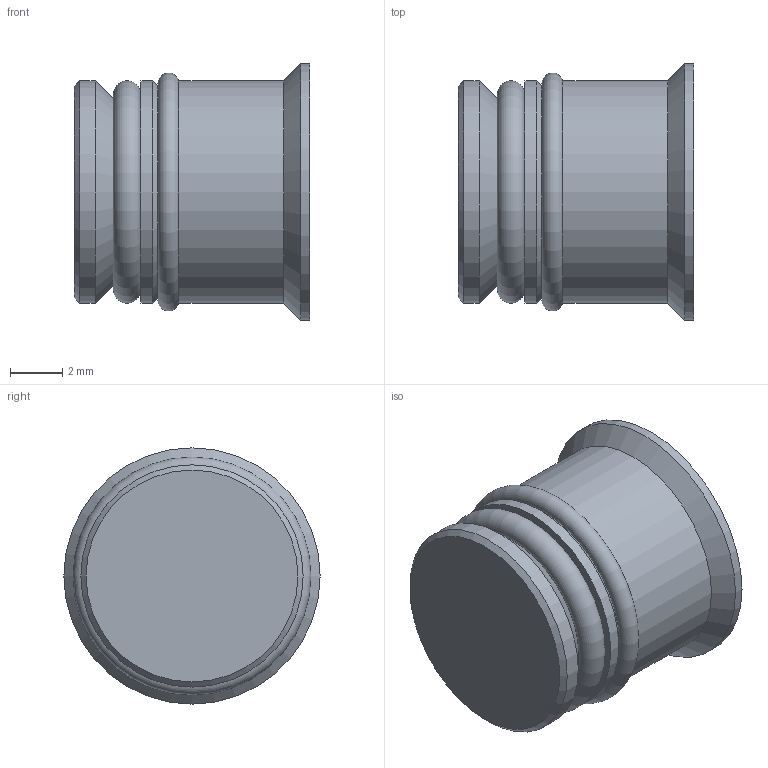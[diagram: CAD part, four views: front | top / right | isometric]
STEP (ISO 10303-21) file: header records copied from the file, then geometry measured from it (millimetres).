
FILE_DESCRIPTION( ( 'STEP AP214' ), '1' );
FILE_NAME( 'p:/temp/worker_118/temp/exporttempdir_2012_152_XAuE9/format_0/TR-8.stp', '2021-02-08T19:20:54', ( 'License CC BY-ND 4.0' ), ( 'CADENAS' ), ' ', 'PARTsolutions', ' ' );
FILE_SCHEMA( ( 'AUTOMOTIVE_DESIGN { 1 0 10303 214 1 1 1 1 }' ) );
Length unit declared in the file: millimetre
Products named in the file (1): _TR-8
Bounding box: 9 x 9.8 x 9.8 mm (x, y, z)
Volume: 449 mm3; surface area: 570.7 mm2
Topology: 1 solids, 1 shells, 31 faces, 66 edges, 42 vertices
Faces by surface type: plane 19, cone 5, cylinder 5, torus 2
Full cylindrical faces by diameter (mm): 5 x1, 8.5 x3, 9.8 x1
Entity records: 1022 total; most frequent: DIRECTION 132, CARTESIAN_POINT 126, ORIENTED_EDGE 104, EDGE_CURVE 52, AXIS2_PLACEMENT_3D 48, EDGE_LOOP 48, VERTEX_POINT 42, FACE_OUTER_BOUND 38
